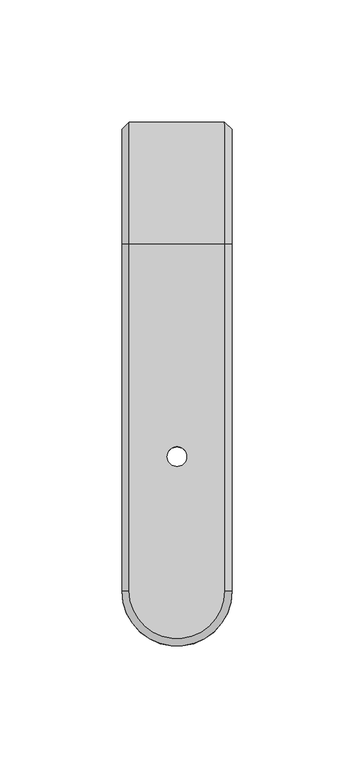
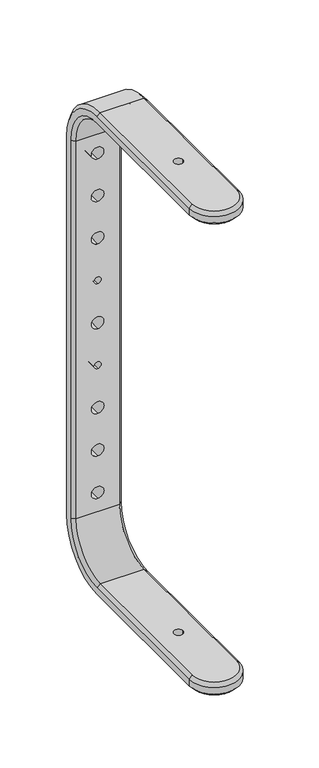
"""IFC4 building model written with IfcOpenShell, lengths in millimetres: proxy geometry, ePS8-HBRK425-WVM : ePS8-HBRK425-WVM."""

from ifc_helpers import new_model, si_unit, frame, origin, place, context, project, spatial, polyline, circle_curve, source, transform, mapped, element, save
from ifc_brep_helpers import plane_surface, cylinder_surface, revolved_surface, advanced_brep


def generic_models_3442bc40(model_context):
    return source(origin(), model_context, "Body", "AdvancedBrep", [
        advanced_brep(
        [(19.5718345, -192.0012591, 228.0), (19.5718345, -50.0, 228.0), (-19.5718345, -50.0, 228.0), (-19.5718345, -192.0012591, 228.0), (4.0, -137.0012591, 228.0), (-4.0, -137.0012591, 228.0), (-22.5718345, -50.0, 225.0), (-22.5718345, -192.0012591, 225.0), (-22.5718345, -3.0, 178.0), (-22.5718345, -3.0, -178.0), (-22.5718345, -50.0, -225.0), (-22.5718345, -192.0012591, -225.0), (-22.5718345, -192.0012591, -219.0), (-22.5718345, -50.0, -219.0), (-22.5718345, -9.0, -178.0), (-22.5718345, -9.0, 178.0), (-22.5718345, -50.0, 219.0), (-22.5718345, -192.0012591, 219.0), (-19.5718345, -50.0, 216.0), (-19.5718345, -192.0012591, 216.0), (19.5718345, -50.0, 216.0), (19.5718345, -192.0012591, 216.0), (-4.0, -137.0012591, 216.0), (4.0, -137.0012591, 216.0), (19.5718345, 0.0, 178.0), (-19.5718345, 0.0, 178.0), (-19.5718345, -12.0, 178.0), (19.5718345, -12.0, 178.0), (19.5718345, 0.0, -178.0), (-19.5718345, 0.0, -178.0), (0.0, 0.0, 5.5), (0.0, 0.0, -5.5), (0.0, 0.0, -154.5), (0.0, 0.0, -165.5), (0.0, 0.0, -37.0), (0.0, 0.0, -43.0), (0.0, 0.0, -114.5), (0.0, 0.0, -125.5), (0.0, 0.0, -74.5), (0.0, 0.0, -85.5), (0.0, 0.0, 154.5), (0.0, 0.0, 165.5), (0.0, 0.0, 37.0), (0.0, 0.0, 43.0), (0.0, 0.0, 114.5), (0.0, 0.0, 125.5), (0.0, 0.0, 74.5), (0.0, 0.0, 85.5), (-19.5718345, -12.0, -178.0), (19.5718345, -12.0, -178.0), (0.0, -12.0, -5.5), (0.0, -12.0, 5.5), (0.0, -12.0, -165.5), (0.0, -12.0, -154.5), (0.0, -12.0, -43.0), (0.0, -12.0, -37.0), (0.0, -12.0, -125.5), (0.0, -12.0, -114.5), (0.0, -12.0, -85.5), (0.0, -12.0, -74.5), (0.0, -12.0, 165.5), (0.0, -12.0, 154.5), (0.0, -12.0, 43.0), (0.0, -12.0, 37.0), (0.0, -12.0, 125.5), (0.0, -12.0, 114.5), (0.0, -12.0, 85.5), (0.0, -12.0, 74.5), (19.5718345, -50.0, -228.0), (-19.5718345, -50.0, -228.0), (-19.5718345, -50.0, -216.0), (19.5718345, -50.0, -216.0), (19.5718345, -192.0012591, -228.0), (-19.5718345, -192.0012591, -228.0), (-4.0, -137.0012591, -228.0), (4.0, -137.0012591, -228.0), (-19.5718345, -192.0012591, -216.0), (19.5718345, -192.0012591, -216.0), (4.0, -137.0012591, -216.0), (-4.0, -137.0012591, -216.0), (22.5718345, -50.0, 219.0), (22.5718345, -192.0012591, 219.0), (22.5718345, -9.0, 178.0), (22.5718345, -9.0, -178.0), (22.5718345, -50.0, -219.0), (22.5718345, -192.0012591, -219.0), (22.5718345, -192.0012591, -225.0), (22.5718345, -50.0, -225.0), (22.5718345, -3.0, -178.0), (22.5718345, -3.0, 178.0), (22.5718345, -50.0, 225.0), (22.5718345, -192.0012591, 225.0)],
        [
            (0, 1),
            (1, 2),
            (2, 3),
            (3, 0, circle_curve(frame((0.0, -192.0012591, 228.0), z_axis=(0.0, 0.0, 1.0), x_axis=(-1.0, 0.0, 0.0)), 19.5718345)),
            (4, 5, circle_curve(frame((0.0, -137.0012591, 228.0), z_axis=(0.0, 0.0, -1.0), x_axis=(1.0, 0.0, 0.0)), 4.0)),
            (5, 4, circle_curve(frame((0.0, -137.0012591, 228.0), z_axis=(0.0, 0.0, -1.0), x_axis=(1.0, 0.0, 0.0)), 4.0)),
            (2, 6),
            (6, 7),
            (7, 3),
            (6, 8, circle_curve(frame((-22.5718345, -50.0, 178.0), z_axis=(-1.0, 0.0, 0.0), x_axis=(0.0, 0.0, 1.0)), 47.0)),
            (8, 9),
            (9, 10, circle_curve(frame((-22.5718345, -50.0, -178.0), z_axis=(-1.0, 0.0, 0.0), x_axis=(0.0, 1.0, 0.0)), 47.0)),
            (10, 11),
            (11, 12),
            (12, 13),
            (13, 14, circle_curve(frame((-22.5718345, -50.0, -178.0), z_axis=(1.0, 0.0, 0.0), x_axis=(0.0, 1.0, 0.0)), 41.0)),
            (14, 15),
            (15, 16, circle_curve(frame((-22.5718345, -50.0, 178.0), z_axis=(1.0, 0.0, 0.0), x_axis=(0.0, 0.0, 1.0)), 41.0)),
            (16, 17),
            (17, 7),
            (16, 18),
            (18, 19),
            (19, 17),
            (18, 20),
            (20, 21),
            (21, 19, circle_curve(frame((0.0, -192.0012591, 216.0), z_axis=(0.0, 0.0, -1.0), x_axis=(-1.0, 0.0, 0.0)), 19.5718345)),
            (22, 23, circle_curve(frame((0.0, -137.0012591, 216.0), z_axis=(0.0, 0.0, 1.0), x_axis=(1.0, 0.0, 0.0)), 4.0)),
            (23, 22, circle_curve(frame((0.0, -137.0012591, 216.0), z_axis=(0.0, 0.0, 1.0), x_axis=(1.0, 0.0, 0.0)), 4.0)),
            (1, 24, circle_curve(frame((19.5718345, -50.0, 178.0), z_axis=(-1.0, 0.0, 0.0), x_axis=(0.0, 0.0, 1.0)), 50.0)),
            (24, 25),
            (25, 2, circle_curve(frame((-19.5718345, -50.0, 178.0), z_axis=(1.0, 0.0, 0.0), x_axis=(0.0, 0.0, 1.0)), 50.0)),
            (25, 8),
            (15, 26),
            (26, 18, circle_curve(frame((-19.5718345, -50.0, 178.0), z_axis=(1.0, 0.0, 0.0), x_axis=(0.0, 0.0, 1.0)), 38.0)),
            (26, 27),
            (27, 20, circle_curve(frame((19.5718345, -50.0, 178.0), z_axis=(1.0, 0.0, 0.0), x_axis=(0.0, 0.0, 1.0)), 38.0)),
            (24, 28),
            (28, 29),
            (29, 25),
            (30, 31, circle_curve(frame((0.0, 0.0, 0.0), z_axis=(0.0, -1.0, 0.0), x_axis=(0.0, 0.0, 1.0)), 5.5)),
            (31, 30, circle_curve(frame((0.0, 0.0, 0.0), z_axis=(0.0, -1.0, 0.0), x_axis=(0.0, 0.0, 1.0)), 5.5)),
            (32, 33, circle_curve(frame((0.0, 0.0, -160.0), z_axis=(0.0, -1.0, 0.0), x_axis=(0.0, 0.0, 1.0)), 5.5)),
            (33, 32, circle_curve(frame((0.0, 0.0, -160.0), z_axis=(0.0, -1.0, 0.0), x_axis=(0.0, 0.0, 1.0)), 5.5)),
            (34, 35, circle_curve(frame((0.0, 0.0, -40.0), z_axis=(0.0, -1.0, 0.0), x_axis=(0.0, 0.0, 1.0)), 3.0)),
            (35, 34, circle_curve(frame((0.0, 0.0, -40.0), z_axis=(0.0, -1.0, 0.0), x_axis=(0.0, 0.0, 1.0)), 3.0)),
            (36, 37, circle_curve(frame((0.0, 0.0, -120.0), z_axis=(0.0, -1.0, 0.0), x_axis=(0.0, 0.0, 1.0)), 5.5)),
            (37, 36, circle_curve(frame((0.0, 0.0, -120.0), z_axis=(0.0, -1.0, 0.0), x_axis=(0.0, 0.0, 1.0)), 5.5)),
            (38, 39, circle_curve(frame((0.0, 0.0, -80.0), z_axis=(0.0, -1.0, 0.0), x_axis=(0.0, 0.0, 1.0)), 5.5)),
            (39, 38, circle_curve(frame((0.0, 0.0, -80.0), z_axis=(0.0, -1.0, 0.0), x_axis=(0.0, 0.0, 1.0)), 5.5)),
            (40, 41, circle_curve(frame((0.0, 0.0, 160.0), z_axis=(0.0, -1.0, 0.0), x_axis=(0.0, 0.0, -1.0)), 5.5)),
            (41, 40, circle_curve(frame((0.0, 0.0, 160.0), z_axis=(0.0, -1.0, 0.0), x_axis=(0.0, 0.0, -1.0)), 5.5)),
            (42, 43, circle_curve(frame((0.0, 0.0, 40.0), z_axis=(0.0, -1.0, 0.0), x_axis=(0.0, 0.0, -1.0)), 3.0)),
            (43, 42, circle_curve(frame((0.0, 0.0, 40.0), z_axis=(0.0, -1.0, 0.0), x_axis=(0.0, 0.0, -1.0)), 3.0)),
            (44, 45, circle_curve(frame((0.0, 0.0, 120.0), z_axis=(0.0, -1.0, 0.0), x_axis=(0.0, 0.0, -1.0)), 5.5)),
            (45, 44, circle_curve(frame((0.0, 0.0, 120.0), z_axis=(0.0, -1.0, 0.0), x_axis=(0.0, 0.0, -1.0)), 5.5)),
            (46, 47, circle_curve(frame((0.0, 0.0, 80.0), z_axis=(0.0, -1.0, 0.0), x_axis=(0.0, 0.0, -1.0)), 5.5)),
            (47, 46, circle_curve(frame((0.0, 0.0, 80.0), z_axis=(0.0, -1.0, 0.0), x_axis=(0.0, 0.0, -1.0)), 5.5)),
            (29, 9),
            (14, 48),
            (48, 26),
            (48, 49),
            (49, 27),
            (50, 51, circle_curve(frame((0.0, -12.0, 0.0), z_axis=(0.0, 1.0, 0.0), x_axis=(0.0, 0.0, 1.0)), 5.5)),
            (51, 50, circle_curve(frame((0.0, -12.0, 0.0), z_axis=(0.0, 1.0, 0.0), x_axis=(0.0, 0.0, 1.0)), 5.5)),
            (52, 53, circle_curve(frame((0.0, -12.0, -160.0), z_axis=(0.0, 1.0, 0.0), x_axis=(0.0, 0.0, 1.0)), 5.5)),
            (53, 52, circle_curve(frame((0.0, -12.0, -160.0), z_axis=(0.0, 1.0, 0.0), x_axis=(0.0, 0.0, 1.0)), 5.5)),
            (54, 55, circle_curve(frame((0.0, -12.0, -40.0), z_axis=(0.0, 1.0, 0.0), x_axis=(0.0, 0.0, 1.0)), 3.0)),
            (55, 54, circle_curve(frame((0.0, -12.0, -40.0), z_axis=(0.0, 1.0, 0.0), x_axis=(0.0, 0.0, 1.0)), 3.0)),
            (56, 57, circle_curve(frame((0.0, -12.0, -120.0), z_axis=(0.0, 1.0, 0.0), x_axis=(0.0, 0.0, 1.0)), 5.5)),
            (57, 56, circle_curve(frame((0.0, -12.0, -120.0), z_axis=(0.0, 1.0, 0.0), x_axis=(0.0, 0.0, 1.0)), 5.5)),
            (58, 59, circle_curve(frame((0.0, -12.0, -80.0), z_axis=(0.0, 1.0, 0.0), x_axis=(0.0, 0.0, 1.0)), 5.5)),
            (59, 58, circle_curve(frame((0.0, -12.0, -80.0), z_axis=(0.0, 1.0, 0.0), x_axis=(0.0, 0.0, 1.0)), 5.5)),
            (60, 61, circle_curve(frame((0.0, -12.0, 160.0), z_axis=(0.0, 1.0, 0.0), x_axis=(0.0, 0.0, -1.0)), 5.5)),
            (61, 60, circle_curve(frame((0.0, -12.0, 160.0), z_axis=(0.0, 1.0, 0.0), x_axis=(0.0, 0.0, -1.0)), 5.5)),
            (62, 63, circle_curve(frame((0.0, -12.0, 40.0), z_axis=(0.0, 1.0, 0.0), x_axis=(0.0, 0.0, -1.0)), 3.0)),
            (63, 62, circle_curve(frame((0.0, -12.0, 40.0), z_axis=(0.0, 1.0, 0.0), x_axis=(0.0, 0.0, -1.0)), 3.0)),
            (64, 65, circle_curve(frame((0.0, -12.0, 120.0), z_axis=(0.0, 1.0, 0.0), x_axis=(0.0, 0.0, -1.0)), 5.5)),
            (65, 64, circle_curve(frame((0.0, -12.0, 120.0), z_axis=(0.0, 1.0, 0.0), x_axis=(0.0, 0.0, -1.0)), 5.5)),
            (66, 67, circle_curve(frame((0.0, -12.0, 80.0), z_axis=(0.0, 1.0, 0.0), x_axis=(0.0, 0.0, -1.0)), 5.5)),
            (67, 66, circle_curve(frame((0.0, -12.0, 80.0), z_axis=(0.0, 1.0, 0.0), x_axis=(0.0, 0.0, -1.0)), 5.5)),
            (28, 68, circle_curve(frame((19.5718345, -50.0, -178.0), z_axis=(-1.0, 0.0, 0.0), x_axis=(0.0, 1.0, 0.0)), 50.0)),
            (68, 69),
            (69, 29, circle_curve(frame((-19.5718345, -50.0, -178.0), z_axis=(1.0, 0.0, 0.0), x_axis=(0.0, 1.0, 0.0)), 50.0)),
            (69, 10),
            (13, 70),
            (70, 48, circle_curve(frame((-19.5718345, -50.0, -178.0), z_axis=(1.0, 0.0, 0.0), x_axis=(0.0, 1.0, 0.0)), 38.0)),
            (70, 71),
            (71, 49, circle_curve(frame((19.5718345, -50.0, -178.0), z_axis=(1.0, 0.0, 0.0), x_axis=(0.0, 1.0, 0.0)), 38.0)),
            (68, 72),
            (72, 73, circle_curve(frame((0.0, -192.0012591, -228.0), z_axis=(0.0, 0.0, -1.0), x_axis=(-1.0, 0.0, 0.0)), 19.5718345)),
            (73, 69),
            (74, 75, circle_curve(frame((0.0, -137.0012591, -228.0), z_axis=(0.0, 0.0, 1.0), x_axis=(1.0, 0.0, 0.0)), 4.0)),
            (75, 74, circle_curve(frame((0.0, -137.0012591, -228.0), z_axis=(0.0, 0.0, 1.0), x_axis=(1.0, 0.0, 0.0)), 4.0)),
            (73, 11),
            (12, 76),
            (76, 70),
            (76, 77, circle_curve(frame((0.0, -192.0012591, -216.0), z_axis=(0.0, 0.0, 1.0), x_axis=(-1.0, 0.0, 0.0)), 19.5718345)),
            (77, 71),
            (78, 79, circle_curve(frame((0.0, -137.0012591, -216.0), z_axis=(0.0, 0.0, -1.0), x_axis=(1.0, 0.0, 0.0)), 4.0)),
            (79, 78, circle_curve(frame((0.0, -137.0012591, -216.0), z_axis=(0.0, 0.0, -1.0), x_axis=(1.0, 0.0, 0.0)), 4.0)),
            (20, 80),
            (80, 81),
            (81, 21),
            (80, 82, circle_curve(frame((22.5718345, -50.0, 178.0), z_axis=(-1.0, 0.0, 0.0), x_axis=(0.0, 0.0, 1.0)), 41.0)),
            (82, 83),
            (83, 84, circle_curve(frame((22.5718345, -50.0, -178.0), z_axis=(-1.0, 0.0, 0.0), x_axis=(0.0, 1.0, 0.0)), 41.0)),
            (84, 85),
            (85, 86),
            (86, 87),
            (87, 88, circle_curve(frame((22.5718345, -50.0, -178.0), z_axis=(1.0, 0.0, 0.0), x_axis=(0.0, 1.0, 0.0)), 47.0)),
            (88, 89),
            (89, 90, circle_curve(frame((22.5718345, -50.0, 178.0), z_axis=(1.0, 0.0, 0.0), x_axis=(0.0, 0.0, 1.0)), 47.0)),
            (90, 91),
            (91, 81),
            (0, 91),
            (90, 1),
            (27, 82),
            (89, 24),
            (49, 83),
            (88, 28),
            (71, 84),
            (87, 68),
            (77, 85),
            (86, 72),
            (85, 12, circle_curve(frame((0.0, -192.0012591, -219.0), z_axis=(0.0, 0.0, -1.0), x_axis=(-1.0, 0.0, 0.0)), 22.5718345)),
            (11, 86, circle_curve(frame((0.0, -192.0012591, -225.0), z_axis=(0.0, 0.0, 1.0), x_axis=(-1.0, 0.0, 0.0)), 22.5718345)),
            (91, 7, circle_curve(frame((0.0, -192.0012591, 225.0), z_axis=(0.0, 0.0, -1.0), x_axis=(-1.0, 0.0, 0.0)), 22.5718345)),
            (17, 81, circle_curve(frame((0.0, -192.0012591, 219.0), z_axis=(0.0, 0.0, 1.0), x_axis=(-1.0, 0.0, 0.0)), 22.5718345)),
            (50, 31),
            (30, 51),
            (52, 33),
            (32, 53),
            (54, 35),
            (34, 55),
            (56, 37),
            (36, 57),
            (58, 39),
            (38, 59),
            (60, 41),
            (40, 61),
            (62, 43),
            (42, 63),
            (64, 45),
            (44, 65),
            (66, 47),
            (46, 67),
            (22, 5),
            (4, 23),
            (74, 79),
            (78, 75),
        ],
        [
            plane_surface(frame((19.5718345, -192.0012591, 228.0), z_axis=(0.0, 0.0, 1.0), x_axis=(0.0, 1.0, 0.0))),
            plane_surface(frame((-19.5718345, -192.0012591, 228.0), z_axis=(-0.7071067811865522, 0.0, 0.7071067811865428), x_axis=(0.0, 1.0, 0.0))),
            plane_surface(frame((-22.5718345, -192.0012591, 225.0), z_axis=(-1.0, 0.0, 0.0), x_axis=(0.0, 1.0, 0.0))),
            plane_surface(frame((-22.5718345, -192.0012591, 219.0), z_axis=(-0.7071067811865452, 0.0, -0.7071067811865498), x_axis=(0.0, 1.0, 0.0))),
            plane_surface(frame((-19.5718345, -192.0012591, 216.0), z_axis=(0.0, 0.0, -1.0), x_axis=(0.0, 1.0, 0.0))),
            cylinder_surface(frame((0.0, -50.0, 178.0), z_axis=(-1.0, 0.0, 0.0), x_axis=(0.0, 0.0, 1.0)), 50.0),
            revolved_surface(polyline([(-19.5718345, -50.0, 228.0), (-22.5718345, -50.0, 225.0)]), (0.0, -50.0, 178.0), (-1.0, 0.0, 0.0)),
            revolved_surface(polyline([(-22.5718345, -50.0, 219.0), (-19.5718345, -50.0, 216.0)]), (0.0, -50.0, 178.0), (-1.0, 0.0, 0.0)),
            revolved_surface(polyline([(-19.5718345, -50.0, 216.0), (19.5718345, -50.0, 216.0)]), (0.0, -50.0, 178.0), (-1.0, 0.0, 0.0)),
            plane_surface(frame((19.5718345, 0.0, 178.0), z_axis=(0.0, 1.0, 0.0), x_axis=(0.0, 0.0, -1.0))),
            plane_surface(frame((-19.5718345, 0.0, 178.0), z_axis=(-0.7071067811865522, 0.7071067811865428, 0.0), x_axis=(0.0, 0.0, -1.0))),
            plane_surface(frame((-22.5718345, -9.0, 178.0), z_axis=(-0.7071067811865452, -0.7071067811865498, 0.0), x_axis=(0.0, 0.0, -1.0))),
            plane_surface(frame((-19.5718345, -12.0, 178.0), z_axis=(0.0, -1.0, 0.0), x_axis=(0.0, 0.0, -1.0))),
            cylinder_surface(frame((0.0, -50.0, -178.0), z_axis=(-1.0, 0.0, 0.0), x_axis=(0.0, 1.0, 0.0)), 50.0),
            revolved_surface(polyline([(-19.5718345, 0.0, -178.0), (-22.5718345, -3.0, -178.0)]), (0.0, -50.0, -178.0), (-1.0, 0.0, 0.0)),
            revolved_surface(polyline([(-22.5718345, -9.0, -178.0), (-19.5718345, -12.0, -178.0)]), (0.0, -50.0, -178.0), (-1.0, 0.0, 0.0)),
            revolved_surface(polyline([(-19.5718345, -12.0, -178.0), (19.5718345, -12.0, -178.0)]), (0.0, -50.0, -178.0), (-1.0, 0.0, 0.0)),
            plane_surface(frame((19.5718345, -50.0, -228.0), z_axis=(0.0, 0.0, -1.0), x_axis=(0.0, -1.0, 0.0))),
            plane_surface(frame((-19.5718345, -50.0, -228.0), z_axis=(-0.7071067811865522, 0.0, -0.7071067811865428), x_axis=(0.0, -1.0, 0.0))),
            plane_surface(frame((-22.5718345, -50.0, -219.0), z_axis=(-0.7071067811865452, 0.0, 0.7071067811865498), x_axis=(0.0, -1.0, 0.0))),
            plane_surface(frame((-19.5718345, -50.0, -216.0), z_axis=(0.0, 0.0, 1.0), x_axis=(0.0, -1.0, 0.0))),
            plane_surface(frame((19.5718345, -192.0012591, 216.0), z_axis=(0.7071067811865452, 0.0, -0.7071067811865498), x_axis=(0.0, 1.0, 0.0))),
            plane_surface(frame((22.5718345, -192.0012591, 219.0), z_axis=(1.0, 0.0, 0.0), x_axis=(0.0, 1.0, 0.0))),
            plane_surface(frame((22.5718345, -192.0012591, 225.0), z_axis=(0.7071067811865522, 0.0, 0.7071067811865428), x_axis=(0.0, 1.0, 0.0))),
            revolved_surface(polyline([(19.5718345, -50.0, 216.0), (22.5718345, -50.0, 219.0)]), (0.0, -50.0, 178.0), (-1.0, 0.0, 0.0)),
            revolved_surface(polyline([(22.5718345, -50.0, 225.0), (19.5718345, -50.0, 228.0)]), (0.0, -50.0, 178.0), (-1.0, 0.0, 0.0)),
            plane_surface(frame((19.5718345, -12.0, 178.0), z_axis=(0.7071067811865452, -0.7071067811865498, 0.0), x_axis=(0.0, 0.0, -1.0))),
            plane_surface(frame((22.5718345, -3.0, 178.0), z_axis=(0.7071067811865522, 0.7071067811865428, 0.0), x_axis=(0.0, 0.0, -1.0))),
            revolved_surface(polyline([(19.5718345, -12.0, -178.0), (22.5718345, -9.0, -178.0)]), (0.0, -50.0, -178.0), (-1.0, 0.0, 0.0)),
            revolved_surface(polyline([(22.5718345, -3.0, -178.0), (19.5718345, 0.0, -178.0)]), (0.0, -50.0, -178.0), (-1.0, 0.0, 0.0)),
            plane_surface(frame((19.5718345, -50.0, -216.0), z_axis=(0.7071067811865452, 0.0, 0.7071067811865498), x_axis=(0.0, -1.0, 0.0))),
            plane_surface(frame((22.5718345, -50.0, -225.0), z_axis=(0.7071067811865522, 0.0, -0.7071067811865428), x_axis=(0.0, -1.0, 0.0))),
            cylinder_surface(frame((0.0, -192.0012591, 1971.5), z_axis=(0.0, 0.0, 1.0), x_axis=(-1.0, 0.0, 0.0)), 22.5718345),
            revolved_surface(polyline([(-22.5718345, -192.0012591, -219.0), (-19.5718345, -192.0012591, -216.0)]), (0.0, -192.0012591, 1971.5), (0.0, 0.0, 1.0)),
            revolved_surface(polyline([(-19.5718345, -192.0012591, -228.0), (-22.5718345, -192.0012591, -225.0)]), (0.0, -192.0012591, 1971.5), (0.0, 0.0, 1.0)),
            cylinder_surface(frame((0.0, -192.0012591, -1971.5), z_axis=(0.0, 0.0, 1.0), x_axis=(-1.0, 0.0, 0.0)), 22.5718345),
            revolved_surface(polyline([(-19.5718345, -192.0012591, 216.0), (-22.5718345, -192.0012591, 219.0)]), (0.0, -192.0012591, -1971.5), (0.0, 0.0, 1.0)),
            revolved_surface(polyline([(-22.5718345, -192.0012591, 225.0), (-19.5718345, -192.0012591, 228.0)]), (0.0, -192.0012591, -1971.5), (0.0, 0.0, 1.0)),
            revolved_surface(polyline([(0.0, 0.0, 5.5), (0.0, -12.0, 5.5)]), (0.0, -20.0, 0.0), (0.0, 1.0, 0.0)),
            revolved_surface(polyline([(0.0, 0.0, -154.5), (0.0, -12.0, -154.5)]), (0.0, 0.0, -160.0), (0.0, 1.0, 0.0)),
            revolved_surface(polyline([(0.0, 0.0, -37.0), (0.0, -12.0, -37.0)]), (0.0, 0.0, -40.0), (0.0, 1.0, 0.0)),
            revolved_surface(polyline([(0.0, 0.0, -114.5), (0.0, -12.0, -114.5)]), (0.0, 0.0, -120.0), (0.0, 1.0, 0.0)),
            revolved_surface(polyline([(0.0, 0.0, -74.5), (0.0, -12.0, -74.5)]), (0.0, 0.0, -80.0), (0.0, 1.0, 0.0)),
            revolved_surface(polyline([(0.0, 0.0, 154.5), (0.0, -12.0, 154.5)]), (0.0, 0.0, 160.0), (0.0, 1.0, 0.0)),
            revolved_surface(polyline([(0.0, 0.0, 37.0), (0.0, -12.0, 37.0)]), (0.0, 0.0, 40.0), (0.0, 1.0, 0.0)),
            revolved_surface(polyline([(0.0, 0.0, 114.5), (0.0, -12.0, 114.5)]), (0.0, 0.0, 120.0), (0.0, 1.0, 0.0)),
            revolved_surface(polyline([(0.0, 0.0, 74.5), (0.0, -12.0, 74.5)]), (0.0, 0.0, 80.0), (0.0, 1.0, 0.0)),
            revolved_surface(polyline([(4.0, -137.0012591, 228.0), (4.0, -137.0012591, 216.0)]), (0.0, -137.0012591, -235.0), (0.0, 0.0, 1.0)),
            revolved_surface(polyline([(4.0, -137.0012591, -216.0), (4.0, -137.0012591, -228.0)]), (0.0, -137.0012591, -235.0), (0.0, 0.0, 1.0)),
        ],
        [
            (0, [[1, 2, 3, 4], [5, 6]]),
            (1, [[-3, 7, 8, 9]]),
            (2, [[-8, 10, 11, 12, 13, 14, 15, 16, 17, 18, 19, 20]]),
            (3, [[-19, 21, 22, 23]]),
            (4, [[-22, 24, 25, 26], [27, 28]]),
            (5, [[-2, 29, 30, 31]]),
            (6, [[-7, -31, 32, -10]]),
            (7, [[-18, 33, 34, -21]]),
            (8, [[-24, -34, 35, 36]]),
            (9, [[-30, 37, 38, 39], [40, 41], [42, 43], [44, 45], [46, 47], [48, 49], [50, 51], [52, 53], [54, 55], [56, 57]]),
            (10, [[-11, -32, -39, 58]]),
            (11, [[-17, 59, 60, -33]]),
            (12, [[-35, -60, 61, 62], [63, 64], [65, 66], [67, 68], [69, 70], [71, 72], [73, 74], [75, 76], [77, 78], [79, 80]]),
            (13, [[-38, 81, 82, 83]]),
            (14, [[-12, -58, -83, 84]]),
            (15, [[-16, 85, 86, -59]]),
            (16, [[-61, -86, 87, 88]]),
            (17, [[-82, 89, 90, 91], [92, 93]]),
            (18, [[-13, -84, -91, 94]]),
            (19, [[-15, 95, 96, -85]]),
            (20, [[-87, -96, 97, 98], [99, 100]]),
            (21, [[-25, 101, 102, 103]]),
            (22, [[-102, 104, 105, 106, 107, 108, 109, 110, 111, 112, 113, 114]]),
            (23, [[-1, 115, -113, 116]]),
            (24, [[-36, 117, -104, -101]]),
            (25, [[-29, -116, -112, 118]]),
            (26, [[-62, 119, -105, -117]]),
            (27, [[-37, -118, -111, 120]]),
            (28, [[-88, 121, -106, -119]]),
            (29, [[-81, -120, -110, 122]]),
            (30, [[-98, 123, -107, -121]]),
            (31, [[-89, -122, -109, 124]]),
            (32, [[125, -14, 126, -108]]),
            (33, [[-125, -123, -97, -95]]),
            (34, [[-126, -94, -90, -124]]),
            (35, [[127, -20, 128, -114]]),
            (36, [[-128, -23, -26, -103]]),
            (37, [[-127, -115, -4, -9]]),
            (38, [[129, -40, 130, -63]]),
            (38, [[-129, -64, -130, -41]]),
            (39, [[131, -42, 132, -65]]),
            (39, [[-131, -66, -132, -43]]),
            (40, [[133, -44, 134, -67]]),
            (40, [[-133, -68, -134, -45]]),
            (41, [[135, -46, 136, -69]]),
            (41, [[-135, -70, -136, -47]]),
            (42, [[137, -48, 138, -71]]),
            (42, [[-137, -72, -138, -49]]),
            (43, [[139, -50, 140, -73]]),
            (43, [[-139, -74, -140, -51]]),
            (44, [[141, -52, 142, -75]]),
            (44, [[-141, -76, -142, -53]]),
            (45, [[143, -54, 144, -77]]),
            (45, [[-143, -78, -144, -55]]),
            (46, [[145, -56, 146, -79]]),
            (46, [[-145, -80, -146, -57]]),
            (47, [[147, -5, 148, -27]]),
            (48, [[149, -99, 150, -92]]),
            (47, [[-147, -28, -148, -6]]),
            (48, [[-149, -93, -150, -100]]),
        ],
    ),
    ])


if __name__ == "__main__":
    model = new_model("IFC4")
    model_context = context("Model", 3, world=origin())
    ifc_project = project(units=[si_unit("LENGTHUNIT", "METRE", prefix="MILLI")], contexts=[model_context])
    site = spatial("IfcSite", under=ifc_project)
    building = spatial("IfcBuilding", under=site)
    placement = place(None, origin())
    generic_models_shape = generic_models_3442bc40(model_context)
    element("IfcBuildingElementProxy", 1, Name="ePS8-HBRK425-WVM : ePS8-HBRK425-WVM", ObjectType="ePS8-HBRK425-WVM : ePS8-HBRK425-WVM", at=placement, inside=building, context=model_context, shape_type="MappedRepresentation", body=[
        mapped(generic_models_shape, transform((0.0, 0.0, 0.0), x_axis=(1.0, 0.0, 0.0), y_axis=(0.0, 1.0, 0.0), z_axis=(0.0, 0.0, 1.0))),
    ])
    save(model, "model.ifc")
